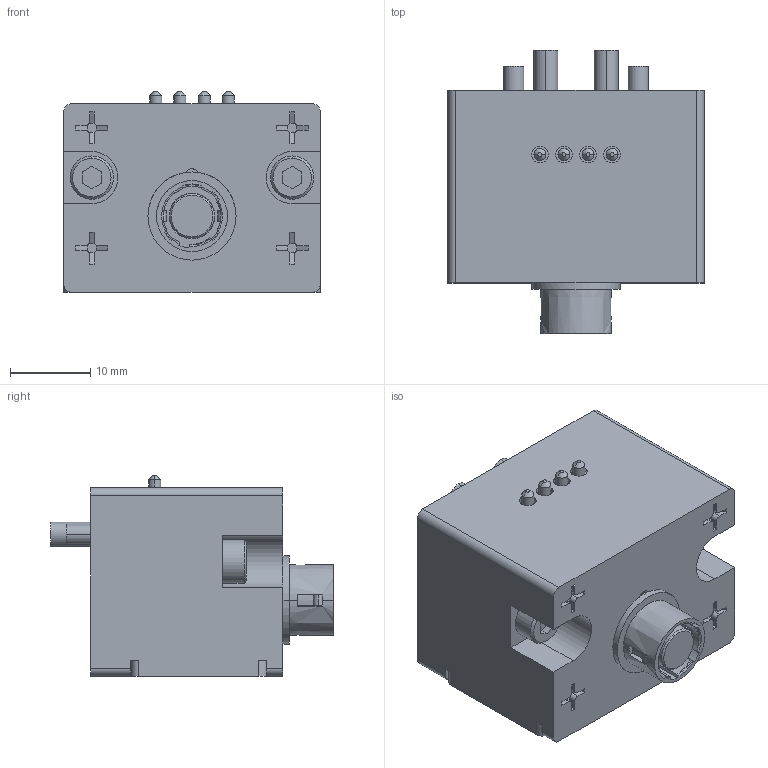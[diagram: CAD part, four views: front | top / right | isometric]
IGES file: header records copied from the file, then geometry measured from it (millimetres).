
Start section: 3D InterOp IGES (v. 2022 1.0.0), Spatial Corp. Copyright (c) 1999-2020.
Global section: file name: KHB-3HS-D14C_ver1.igs; native system: Spatial Corp.; preprocessor: 3D InterOp GENERIC/IGES 3.0; author: Noname; organization: Noname; date: 20260424.101122; units: millimetre
Bounding box: 32 x 35.3 x 25 mm (x, y, z)
Surface area: 6457.1 mm2 (no closed solid volume)
Topology: 0 solids, 0 shells, 622 faces, 3126 edges, 3125 vertices
Faces by surface type: extrusion 386, revolution 236
